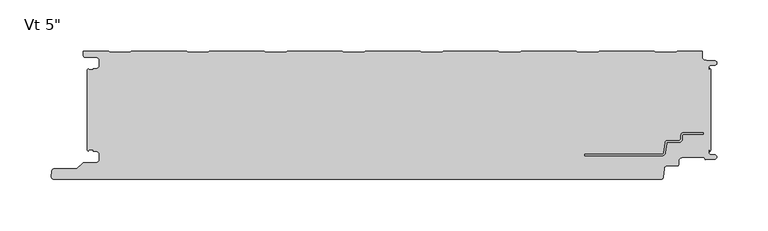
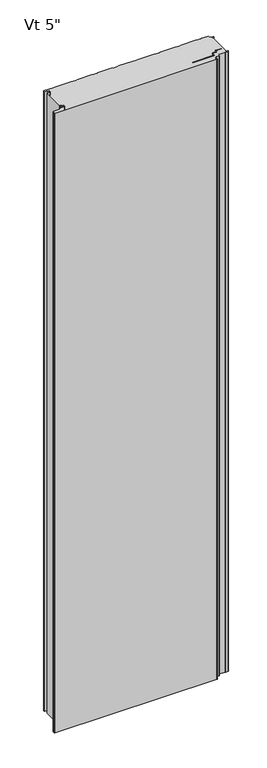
"""IFC4 building model written with IfcOpenShell, lengths in millimetres: plate geometry."""

from ifc_helpers import new_model, si_unit, frame, origin, place, context, project, spatial, polyline, circle_curve, source, transform, mapped, element, save
from ifc_brep_helpers import plane_surface, cylinder_surface, revolved_surface, advanced_brep


def plate_bf2f585f(model_context):
    return source(origin(), model_context, "Body", "AdvancedBrep", [
        advanced_brep(
        [(278.4543181, -80.5008679, 0.0), (297.1995181, -80.5008679, 0.0), (297.1995181, -82.0248679, 0.0), (278.4543181, -82.0248679, 0.0), (276.9303181, -83.5488679, 0.0), (276.9303181, -86.6476679, 0.0), (273.4759181, -90.1020679, 0.0), (262.2633607, -90.1020679, 0.0), (261.5042604, -90.7976552, 0.0), (260.3094328, -100.3416507, 0.0), (257.2730313, -103.124, 0.0), (181.7057181, -103.1360323, 0.0), (181.7057181, -101.6, 0.0), (257.2730313, -101.6, 0.0), (258.7912321, -100.2088254, 0.0), (259.9860597, -90.6648299, 0.0), (262.2633607, -88.5780679, 0.0), (273.4759181, -88.5780679, 0.0), (275.4063181, -86.6476679, 0.0), (275.4063181, -83.5488679, 0.0), (278.4543181, -80.5008679, 2400.0), (275.4063181, -83.5488679, 2400.0), (275.4063181, -86.6476679, 2400.0), (273.4759181, -88.5780679, 2400.0), (262.2633607, -88.5780679, 2400.0), (259.9860597, -90.6648299, 2400.0), (258.7912321, -100.2088254, 2400.0), (257.2730313, -101.6, 2400.0), (181.7057181, -101.6, 2400.0), (181.7057181, -103.1360323, 2400.0), (257.2730313, -103.1360323, 2400.0), (260.3094328, -100.3416507, 2400.0), (261.5042604, -90.7976552, 2400.0), (262.2633607, -90.1020679, 2400.0), (273.4759181, -90.1020679, 2400.0), (276.9303181, -86.6476679, 2400.0), (276.9303181, -83.5488679, 2400.0), (278.4543181, -82.0248679, 2400.0), (297.1995181, -82.0248679, 2400.0), (297.1995181, -80.5008679, 2400.0)],
        [
            (0, 1),
            (1, 2),
            (2, 3),
            (3, 4, circle_curve(frame((278.4543181, -83.5488679, 0.0), z_axis=(0.0, 0.0, 1.0), x_axis=(0.0, 1.0, 0.0)), 1.524)),
            (4, 5),
            (5, 6, circle_curve(frame((273.4759181, -86.6476679, 0.0), z_axis=(0.0, 0.0, -1.0), x_axis=(0.0, 1.0, 0.0)), 3.4544)),
            (6, 7),
            (7, 8, circle_curve(frame((262.2633607, -90.8640679, 0.0), z_axis=(0.0, 0.0, 1.0), x_axis=(0.0, 1.0, 0.0)), 0.762)),
            (8, 9),
            (9, 10, circle_curve(frame((257.2730313, -100.076, 0.0), z_axis=(0.0, 0.0, -1.0), x_axis=(0.0, 1.0, 0.0)), 3.048)),
            (10, 11),
            (11, 12),
            (12, 13),
            (13, 14, circle_curve(frame((257.2730313, -100.076, 0.0), z_axis=(0.0, 0.0, 1.0), x_axis=(0.0, 1.0, 0.0)), 1.524)),
            (14, 15),
            (15, 16, circle_curve(frame((262.2633607, -90.8640679, 0.0), z_axis=(0.0, 0.0, -1.0), x_axis=(0.0, 1.0, 0.0)), 2.286)),
            (16, 17),
            (17, 18, circle_curve(frame((273.4759181, -86.6476679, 0.0), z_axis=(0.0, 0.0, 1.0), x_axis=(0.0, 1.0, 0.0)), 1.9304)),
            (18, 19),
            (19, 0, circle_curve(frame((278.4543181, -83.5488679, 0.0), z_axis=(0.0, 0.0, -1.0), x_axis=(0.0, 1.0, 0.0)), 3.048)),
            (20, 21, circle_curve(frame((278.4543181, -83.5488679, 2400.0), z_axis=(0.0, 0.0, 1.0), x_axis=(0.0, 1.0, 0.0)), 3.048)),
            (21, 22),
            (22, 23, circle_curve(frame((273.4759181, -86.6476679, 2400.0), z_axis=(0.0, 0.0, -1.0), x_axis=(0.0, 1.0, 0.0)), 1.9304)),
            (23, 24),
            (24, 25, circle_curve(frame((262.2633607, -90.8640679, 2400.0), z_axis=(0.0, 0.0, 1.0), x_axis=(0.0, 1.0, 0.0)), 2.286)),
            (25, 26),
            (26, 27, circle_curve(frame((257.2730313, -100.076, 2400.0), z_axis=(0.0, 0.0, -1.0), x_axis=(0.0, 1.0, 0.0)), 1.524)),
            (27, 28),
            (28, 29),
            (29, 30),
            (30, 31, circle_curve(frame((257.2730313, -100.076, 2400.0), z_axis=(0.0, 0.0, 1.0), x_axis=(0.0, 1.0, 0.0)), 3.048)),
            (31, 32),
            (32, 33, circle_curve(frame((262.2633607, -90.8640679, 2400.0), z_axis=(0.0, 0.0, -1.0), x_axis=(0.0, 1.0, 0.0)), 0.762)),
            (33, 34),
            (34, 35, circle_curve(frame((273.4759181, -86.6476679, 2400.0), z_axis=(0.0, 0.0, 1.0), x_axis=(0.0, 1.0, 0.0)), 3.4544)),
            (35, 36),
            (36, 37, circle_curve(frame((278.4543181, -83.5488679, 2400.0), z_axis=(0.0, 0.0, -1.0), x_axis=(0.0, 1.0, 0.0)), 1.524)),
            (37, 38),
            (38, 39),
            (39, 20),
            (2, 38),
            (37, 3),
            (15, 25),
            (24, 16),
            (7, 33),
            (32, 8),
            (5, 35),
            (34, 6),
            (1, 39),
            (36, 4),
            (9, 31),
            (30, 10),
            (13, 27),
            (26, 14),
            (0, 20),
            (12, 28),
            (29, 11),
            (23, 17),
            (18, 22),
            (21, 19),
        ],
        [
            plane_surface(frame((297.1995181, -101.6, 0.0), z_axis=(0.0, 0.0, -1.0), x_axis=(-1.0, 0.0, 0.0))),
            plane_surface(frame((297.1995181, -101.6, 2400.0), z_axis=(0.0, 0.0, 1.0), x_axis=(-1.0, 0.0, 0.0))),
            plane_surface(frame((278.4543181, -82.0248679, 0.0), z_axis=(0.0, -1.0, 0.0), x_axis=(0.0, 0.0, 1.0))),
            cylinder_surface(frame((262.2633607, -90.8640679, 0.0), z_axis=(0.0, 0.0, -1.0), x_axis=(0.0, 1.0, 0.0)), 2.286),
            revolved_surface(polyline([(262.2633607, -90.1020679, 2400.0), (262.2633607, -90.1020679, 0.0)]), (262.2633607, -90.8640679, 0.0), (0.0, 0.0, 1.0)),
            cylinder_surface(frame((273.4759181, -86.6476679, 0.0), z_axis=(0.0, 0.0, -1.0), x_axis=(0.0, 1.0, 0.0)), 3.4544),
            plane_surface(frame((297.1995181, -82.0248679, 0.0), z_axis=(1.0, 0.0, 0.0), x_axis=(0.0, 0.0, 1.0))),
            revolved_surface(polyline([(278.4543181, -82.0248679, 2400.0), (278.4543181, -82.0248679, 0.0)]), (278.4543181, -83.5488679, 0.0), (0.0, 0.0, 1.0)),
            cylinder_surface(frame((257.2730313, -100.076, 0.0), z_axis=(0.0, 0.0, -1.0), x_axis=(0.0, 1.0, 0.0)), 3.048),
            revolved_surface(polyline([(257.2730313, -98.55199999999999, 2400.0), (257.2730313, -98.55199999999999, 0.0)]), (257.2730313, -100.076, 0.0), (0.0, 0.0, 1.0)),
            plane_surface(frame((297.1995181, -80.5008679, 0.0), z_axis=(0.0, 1.0, 0.0), x_axis=(0.0, 0.0, 1.0))),
            plane_surface(frame((259.9860597, -90.6648299, 0.0), z_axis=(-0.992254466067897, 0.12422187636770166, 0.0), x_axis=(0.0, 0.0, 1.0))),
            plane_surface(frame((257.2730313, -101.6, 0.0), z_axis=(0.0, 1.0, 0.0), x_axis=(0.0, 0.0, 1.0))),
            plane_surface(frame((260.3094328, -100.3416507, 0.0), z_axis=(0.9922544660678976, -0.12422187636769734, 0.0), x_axis=(0.0, 0.0, 1.0))),
            plane_surface(frame((276.9303181, -86.6476679, 0.0), z_axis=(1.0, 0.0, 0.0), x_axis=(0.0, 0.0, 1.0))),
            plane_surface(frame((181.7057181, -103.1360323, 0.0), z_axis=(0.0, -1.0, 0.0), x_axis=(0.0, 0.0, 1.0))),
            plane_surface(frame((181.7057181, -101.6, 0.0), z_axis=(-1.0, 0.0, 0.0), x_axis=(0.0, 0.0, 1.0))),
            plane_surface(frame((273.4759181, -88.5780679, 0.0), z_axis=(0.0, 1.0, 0.0), x_axis=(0.0, 0.0, 1.0))),
            plane_surface(frame((275.4063181, -83.5488679, 0.0), z_axis=(-1.0, 0.0, 0.0), x_axis=(0.0, 0.0, 1.0))),
            plane_surface(frame((262.2633607, -90.1020679, 0.0), z_axis=(0.0, -1.0, 0.0), x_axis=(0.0, 0.0, 1.0))),
            revolved_surface(polyline([(273.4759181, -84.7172679, 2400.0), (273.4759181, -84.7172679, 0.0)]), (273.4759181, -86.6476679, 0.0), (0.0, 0.0, 1.0)),
            cylinder_surface(frame((278.4543181, -83.5488679, 0.0), z_axis=(0.0, 0.0, -1.0), x_axis=(0.0, 1.0, 0.0)), 3.048),
        ],
        [
            (0, [[1, 2, 3, 4, 5, 6, 7, 8, 9, 10, 11, 12, 13, 14, 15, 16, 17, 18, 19, 20]]),
            (1, [[21, 22, 23, 24, 25, 26, 27, 28, 29, 30, 31, 32, 33, 34, 35, 36, 37, 38, 39, 40]]),
            (2, [[41, -38, 42, -3]]),
            (3, [[43, -25, 44, -16]]),
            (4, [[45, -33, 46, -8]]),
            (5, [[47, -35, 48, -6]]),
            (6, [[49, -39, -41, -2]]),
            (7, [[-42, -37, 50, -4]]),
            (8, [[51, -31, 52, -10]]),
            (9, [[53, -27, 54, -14]]),
            (10, [[55, -40, -49, -1]]),
            (11, [[-54, -26, -43, -15]]),
            (12, [[56, -28, -53, -13]]),
            (13, [[-46, -32, -51, -9]]),
            (14, [[-50, -36, -47, -5]]),
            (15, [[-52, -30, 57, -11]]),
            (16, [[-57, -29, -56, -12]]),
            (17, [[-44, -24, 58, -17]]),
            (18, [[59, -22, 60, -19]]),
            (19, [[-48, -34, -45, -7]]),
            (20, [[-58, -23, -59, -18]]),
            (21, [[-60, -21, -55, -20]]),
        ],
    ),
        advanced_brep(
        [(-303.7683001, -98.670875, 2400.0), (-302.5671761, -97.5014003, 2400.0), (-298.8087827, -97.5014003, 2400.0), (-298.8087827, -98.8998791, 2400.0), (-296.1096717, -98.8998791, 2400.0), (-292.7596764, -102.2498744, 2400.0), (-292.7596764, -106.6498656, 2400.0), (-296.1096717, -109.9998609, 2400.0), (-307.9205608, -109.9998609, 2400.0), (-309.1226385, -110.4977778, 2400.0), (-314.6247096, -115.9998489, 2400.0), (-336.7198392, -115.9998489, 2400.0), (-339.3765709, -118.2184509, 2400.0), (-339.8125699, -123.2002718, 2400.0), (-337.2521176, -125.9945967, 2400.0), (256.315622, -126.0, 2400.0), (258.2669057, -124.2149259, 2400.0), (259.021161, -115.7539491, 2400.0), (262.1653654, -112.9906462, 2400.0), (272.2583308, -112.9906462, 2400.0), (273.2097394, -112.0392375, 2400.0), (273.2097394, -108.8955822, 2400.0), (277.2091924, -104.8961292, 2400.0), (298.3895515, -104.8961292, 2400.0), (299.5334028, -106.876977, 2400.0), (308.506811, -106.5217167, 2400.0), (308.5037148, -102.3211391, 2400.0), (304.4977997, -102.0767242, 2400.0), (302.7686884, -100.2819116, 2400.0), (302.7686884, -97.497365, 2400.0), (303.7686884, -97.497365, 2400.0), (303.7686884, -99.084865, 2400.0), (304.8, -98.0535534, 2400.0), (304.8, -18.6184525, 2400.0), (303.7686884, -17.5871409, 2400.0), (303.7686884, -19.0015288, 2400.0), (302.7686884, -19.0015288, 2400.0), (302.7686884, -16.6743462, 2400.0), (304.4513685, -14.9256429, 2400.0), (308.5921924, -14.7059822, 2400.0), (308.5931719, -10.4046442, 2400.0), (300.1016499, -9.9974365, 2400.0), (296.2787013, -6.0026007, 2400.0), (296.2787013, -1.0, 2400.0), (271.7794011, -1.0, 2400.0), (270.3937682, -2.2002307, 2400.0), (251.0186019, -2.2002307, 2400.0), (249.6329689, -1.0, 2400.0), (195.5795535, -1.0, 2400.0), (194.1939206, -2.2002307, 2400.0), (174.8187543, -2.2002307, 2400.0), (173.4331213, -1.0, 2400.0), (119.3797059, -1.0, 2400.0), (117.994073, -2.2002307, 2400.0), (98.6189067, -2.2002307, 2400.0), (97.2332737, -1.0, 2400.0), (43.1798583, -1.0, 2400.0), (41.7942254, -2.2002307, 2400.0), (22.4190591, -2.2002307, 2400.0), (21.0334261, -1.0, 2400.0), (-33.0199893, -1.0, 2400.0), (-34.4056222, -2.2002307, 2400.0), (-53.7807885, -2.2002307, 2400.0), (-55.1664215, -1.0, 2400.0), (-109.2198369, -1.0, 2400.0), (-110.6054698, -2.2002307, 2400.0), (-129.9806361, -2.2002307, 2400.0), (-131.3662691, -1.0, 2400.0), (-185.4196845, -1.0, 2400.0), (-186.8053174, -2.2002307, 2400.0), (-206.1804837, -2.2002307, 2400.0), (-207.5661167, -1.0, 2400.0), (-261.6195321, -1.0, 2400.0), (-263.005165, -2.2002307, 2400.0), (-282.3803313, -2.2002307, 2400.0), (-283.765974, -0.9999916, 2400.0), (-308.2662506, -0.9999916, 2400.0), (-308.2662506, -5.2315389, 2400.0), (-306.4962564, -7.0015331, 2400.0), (-296.0762778, -7.0015331, 2400.0), (-292.776282, -10.301529, 2400.0), (-292.776282, -14.7015202, 2400.0), (-296.0762777, -18.0015159, 2400.0), (-298.7684875, -18.0015159, 2400.0), (-298.7684875, -19.0015105, 2400.0), (-302.7686911, -19.0015105, 2400.0), (-303.7686883, -18.0015192, 2400.0), (-304.8, -19.0328308, 2400.0), (-304.8, -97.6391751, 2400.0), (-303.7683001, -98.670875, 0.0), (-304.8, -97.6391751, 0.0), (-304.8, -19.0328308, 0.0), (-303.7686883, -18.0015192, 0.0), (-302.7686911, -19.0015105, 0.0), (-298.7684875, -19.0015105, 0.0), (-298.7684875, -18.0015159, 0.0), (-296.0762777, -18.0015159, 0.0), (-292.776282, -14.7015202, 0.0), (-292.776282, -10.301529, 0.0), (-296.0762778, -7.0015331, 0.0), (-306.4962564, -7.0015331, 0.0), (-308.2662506, -5.2315389, 0.0), (-308.2662506, -0.9999916, 0.0), (-283.765974, -0.9999916, 0.0), (-282.3803313, -2.2002307, 0.0), (-263.005165, -2.2002307, 0.0), (-261.6195321, -1.0, 0.0), (-207.5661167, -1.0, 0.0), (-206.1804837, -2.2002307, 0.0), (-186.8053174, -2.2002307, 0.0), (-185.4196845, -1.0, 0.0), (-131.3662691, -1.0, 0.0), (-129.9806361, -2.2002307, 0.0), (-110.6054698, -2.2002307, 0.0), (-109.2198369, -1.0, 0.0), (-55.1664215, -1.0, 0.0), (-53.7807885, -2.2002307, 0.0), (-34.4056222, -2.2002307, 0.0), (-33.0199893, -1.0, 0.0), (21.0334261, -1.0, 0.0), (22.4190591, -2.2002307, 0.0), (41.7942254, -2.2002307, 0.0), (43.1798583, -1.0, 0.0), (97.2332737, -1.0, 0.0), (98.6189067, -2.2002307, 0.0), (117.994073, -2.2002307, 0.0), (119.3797059, -1.0, 0.0), (173.4331213, -1.0, 0.0), (174.8187543, -2.2002307, 0.0), (194.1939206, -2.2002307, 0.0), (195.5795535, -1.0, 0.0), (249.6329689, -1.0, 0.0), (251.0186019, -2.2002307, 0.0), (270.3937682, -2.2002307, 0.0), (271.7794011, -1.0, 0.0), (296.2787013, -1.0, 0.0), (296.2787013, -6.0026007, 0.0), (300.1016499, -9.9974365, 0.0), (308.5931719, -10.4046442, 0.0), (308.5921924, -14.7059822, 0.0), (304.4513685, -14.9256429, 0.0), (302.7686884, -16.6743462, 0.0), (302.7686884, -19.0015288, 0.0), (303.7686884, -19.0015288, 0.0), (303.7686884, -17.5871409, 0.0), (304.8, -18.6184525, 0.0), (304.8, -98.0535534, 0.0), (303.7686884, -99.084865, 0.0), (303.7686884, -97.497365, 0.0), (302.7686884, -97.497365, 0.0), (302.7686884, -100.2819116, 0.0), (304.4977997, -102.0767242, 0.0), (308.5037148, -102.3211391, 0.0), (308.506811, -106.5217167, 0.0), (299.5334028, -106.876977, 0.0), (298.3895515, -104.8961292, 0.0), (277.2091924, -104.8961292, 0.0), (273.2097394, -108.8955822, 0.0), (273.2097394, -112.0392375, 0.0), (272.2583308, -112.9906462, 0.0), (262.1653654, -112.9906462, 0.0), (259.021161, -115.7539491, 0.0), (258.2669057, -124.2149259, 0.0), (256.315622, -126.0, 0.0), (-337.2521176, -126.0, 0.0), (-339.8125699, -123.2002718, 0.0), (-339.3765709, -118.2184509, 0.0), (-336.7198392, -115.9998489, 0.0), (-314.6247096, -115.9998489, 0.0), (-309.1226385, -110.4977778, 0.0), (-307.9205608, -109.9998609, 0.0), (-296.1096717, -109.9998609, 0.0), (-292.7596764, -106.6498656, 0.0), (-292.7596764, -102.2498744, 0.0), (-296.1096717, -98.8998791, 0.0), (-298.8087827, -98.8998791, 0.0), (-298.8087827, -97.5014003, 0.0), (-302.5671761, -97.5014003, 0.0)],
        [
            (0, 1, circle_curve(frame((-302.5686908, -98.7013969, 2400.0), z_axis=(0.0, 0.0, -1.0), x_axis=(-1.0, 0.0, 0.0)), 1.1999976)),
            (1, 2),
            (2, 3),
            (3, 4),
            (4, 5, circle_curve(frame((-296.1096717, -102.2498744, 2400.0), z_axis=(0.0, 0.0, -1.0), x_axis=(-1.0, 0.0, 0.0)), 3.3499953)),
            (5, 6),
            (6, 7, circle_curve(frame((-296.1096717, -106.6498656, 2400.0), z_axis=(0.0, 0.0, -1.0), x_axis=(-1.0, 0.0, 0.0)), 3.3499953)),
            (7, 8),
            (8, 9, circle_curve(frame((-307.9205608, -111.6998555, 2400.0), z_axis=(0.0, 0.0, 1.0), x_axis=(-1.0, 0.0, 0.0)), 1.6999946)),
            (9, 10),
            (10, 11),
            (11, 12, circle_curve(frame((-336.7198392, -118.6998415, 2400.0), z_axis=(0.0, 0.0, 1.0), x_axis=(-1.0, 0.0, 0.0)), 2.6999926)),
            (12, 13),
            (13, 14, circle_curve(frame((-337.2521176, -123.4243575, 2400.0), z_axis=(0.0, 0.0, 1.0), x_axis=(-1.0, 0.0, 0.0)), 2.5702393)),
            (14, 15),
            (15, 16, circle_curve(frame((256.315622, -124.0409784, 2400.0), z_axis=(0.0, 0.0, 1.0), x_axis=(-1.0, 0.0, 0.0)), 1.9590216)),
            (16, 17),
            (17, 18, circle_curve(frame((262.0396267, -116.0180321, 2400.0), z_axis=(0.0, 0.0, -1.0), x_axis=(-1.0, 0.0, 0.0)), 3.0299959)),
            (18, 19),
            (19, 20, circle_curve(frame((272.2583308, -112.0392375, 2400.0), z_axis=(0.0, 0.0, 1.0), x_axis=(-1.0, 0.0, 0.0)), 0.9514087)),
            (20, 21),
            (21, 22, circle_curve(frame((277.2091924, -108.8955822, 2400.0), z_axis=(0.0, 0.0, -1.0), x_axis=(-1.0, 0.0, 0.0)), 3.9994529)),
            (22, 23),
            (23, 24),
            (24, 25),
            (25, 26, circle_curve(frame((308.4236622, -104.421488, 2400.0), z_axis=(0.0, 0.0, 1.0), x_axis=(-1.0, 0.0, 0.0)), 2.1018739)),
            (26, 27),
            (27, 28, circle_curve(frame((304.6099653, -100.2383506, 2400.0), z_axis=(0.0, 0.0, -1.0), x_axis=(-1.0, 0.0, 0.0)), 1.8417922)),
            (28, 29),
            (29, 30),
            (30, 31),
            (31, 32),
            (32, 33),
            (33, 34),
            (34, 35),
            (35, 36),
            (36, 37),
            (37, 38, circle_curve(frame((304.5186869, -16.6743462, 2400.0), z_axis=(0.0, 0.0, -1.0), x_axis=(1.0, 0.0, 0.0)), 1.7499985)),
            (38, 39),
            (39, 40, circle_curve(frame((308.4781032, -12.5552871, 2400.0), z_axis=(0.0, 0.0, 1.0), x_axis=(1.0, 0.0, 0.0)), 2.153719)),
            (40, 41),
            (41, 42, circle_curve(frame((300.2939817, -5.9867338, 2400.0), z_axis=(0.0, 0.0, -1.0), x_axis=(1.0, 0.0, 0.0)), 4.0153117)),
            (42, 43),
            (43, 44),
            (44, 45),
            (45, 46),
            (46, 47),
            (47, 48),
            (48, 49),
            (49, 50),
            (50, 51),
            (51, 52),
            (52, 53),
            (53, 54),
            (54, 55),
            (55, 56),
            (56, 57),
            (57, 58),
            (58, 59),
            (59, 60),
            (60, 61),
            (61, 62),
            (62, 63),
            (63, 64),
            (64, 65),
            (65, 66),
            (66, 67),
            (67, 68),
            (68, 69),
            (69, 70),
            (70, 71),
            (71, 72),
            (72, 73),
            (73, 74),
            (74, 75),
            (75, 76),
            (76, 77),
            (77, 78, circle_curve(frame((-306.4962564, -5.2315389, 2400.0), z_axis=(0.0, 0.0, 1.0), x_axis=(1.0, 0.0, 0.0)), 1.7699942)),
            (78, 79),
            (79, 80, circle_curve(frame((-296.0762778, -10.301529, 2400.0), z_axis=(0.0, 0.0, -1.0), x_axis=(1.0, 0.0, 0.0)), 3.2999959)),
            (80, 81),
            (81, 82, circle_curve(frame((-296.0762777, -14.7015202, 2400.0), z_axis=(0.0, 0.0, -1.0), x_axis=(1.0, 0.0, 0.0)), 3.2999957)),
            (82, 83),
            (83, 84),
            (84, 85),
            (85, 86, circle_curve(frame((-302.7686911, -18.0015133, 2400.0), z_axis=(0.0, 0.0, -1.0), x_axis=(1.0, 0.0, 0.0)), 0.9999972)),
            (86, 87),
            (87, 88),
            (88, 0),
            (89, 90),
            (90, 91),
            (91, 92),
            (92, 93, circle_curve(frame((-302.7686911, -18.0015133, 0.0), z_axis=(0.0, 0.0, 1.0), x_axis=(1.0, 0.0, 0.0)), 0.9999972)),
            (93, 94),
            (94, 95),
            (95, 96),
            (96, 97, circle_curve(frame((-296.0762777, -14.7015202, 0.0), z_axis=(0.0, 0.0, 1.0), x_axis=(1.0, 0.0, 0.0)), 3.2999957)),
            (97, 98),
            (98, 99, circle_curve(frame((-296.0762778, -10.301529, 0.0), z_axis=(0.0, 0.0, 1.0), x_axis=(1.0, 0.0, 0.0)), 3.2999959)),
            (99, 100),
            (100, 101, circle_curve(frame((-306.4962564, -5.2315389, 0.0), z_axis=(0.0, 0.0, -1.0), x_axis=(1.0, 0.0, 0.0)), 1.7699942)),
            (101, 102),
            (102, 103),
            (103, 104),
            (104, 105),
            (105, 106),
            (106, 107),
            (107, 108),
            (108, 109),
            (109, 110),
            (110, 111),
            (111, 112),
            (112, 113),
            (113, 114),
            (114, 115),
            (115, 116),
            (116, 117),
            (117, 118),
            (118, 119),
            (119, 120),
            (120, 121),
            (121, 122),
            (122, 123),
            (123, 124),
            (124, 125),
            (125, 126),
            (126, 127),
            (127, 128),
            (128, 129),
            (129, 130),
            (130, 131),
            (131, 132),
            (132, 133),
            (133, 134),
            (134, 135),
            (135, 136),
            (136, 137, circle_curve(frame((300.2939817, -5.9867338, 0.0), z_axis=(0.0, 0.0, 1.0), x_axis=(1.0, 0.0, 0.0)), 4.0153117)),
            (137, 138),
            (138, 139, circle_curve(frame((308.4781032, -12.5552871, 0.0), z_axis=(0.0, 0.0, -1.0), x_axis=(1.0, 0.0, 0.0)), 2.153719)),
            (139, 140),
            (140, 141, circle_curve(frame((304.5186869, -16.6743462, 0.0), z_axis=(0.0, 0.0, 1.0), x_axis=(1.0, 0.0, 0.0)), 1.7499985)),
            (141, 142),
            (142, 143),
            (143, 144),
            (144, 145),
            (145, 146),
            (146, 147),
            (147, 148),
            (148, 149),
            (149, 150),
            (150, 151, circle_curve(frame((304.6099653, -100.2383506, 0.0), z_axis=(0.0, 0.0, 1.0), x_axis=(-1.0, 0.0, 0.0)), 1.8417922)),
            (151, 152),
            (152, 153, circle_curve(frame((308.4236622, -104.421488, 0.0), z_axis=(0.0, 0.0, -1.0), x_axis=(-1.0, 0.0, 0.0)), 2.1018739)),
            (153, 154),
            (154, 155),
            (155, 156),
            (156, 157, circle_curve(frame((277.2091924, -108.8955822, 0.0), z_axis=(0.0, 0.0, 1.0), x_axis=(-1.0, 0.0, 0.0)), 3.9994529)),
            (157, 158),
            (158, 159, circle_curve(frame((272.2583308, -112.0392375, 0.0), z_axis=(0.0, 0.0, -1.0), x_axis=(-1.0, 0.0, 0.0)), 0.9514087)),
            (159, 160),
            (160, 161, circle_curve(frame((262.0396267, -116.0180321, 0.0), z_axis=(0.0, 0.0, 1.0), x_axis=(-1.0, 0.0, 0.0)), 3.0299959)),
            (161, 162),
            (162, 163, circle_curve(frame((256.315622, -124.0409784, 0.0), z_axis=(0.0, 0.0, -1.0), x_axis=(-1.0, 0.0, 0.0)), 1.9590216)),
            (163, 164),
            (164, 165, circle_curve(frame((-337.2521176, -123.4243575, 0.0), z_axis=(0.0, 0.0, -1.0), x_axis=(-1.0, 0.0, 0.0)), 2.5702393)),
            (165, 166),
            (166, 167, circle_curve(frame((-336.7198392, -118.6998415, 0.0), z_axis=(0.0, 0.0, -1.0), x_axis=(-1.0, 0.0, 0.0)), 2.6999926)),
            (167, 168),
            (168, 169),
            (169, 170, circle_curve(frame((-307.9205608, -111.6998555, 0.0), z_axis=(0.0, 0.0, -1.0), x_axis=(-1.0, 0.0, 0.0)), 1.6999946)),
            (170, 171),
            (171, 172, circle_curve(frame((-296.1096717, -106.6498656, 0.0), z_axis=(0.0, 0.0, 1.0), x_axis=(-1.0, 0.0, 0.0)), 3.3499953)),
            (172, 173),
            (173, 174, circle_curve(frame((-296.1096717, -102.2498744, 0.0), z_axis=(0.0, 0.0, 1.0), x_axis=(-1.0, 0.0, 0.0)), 3.3499953)),
            (174, 175),
            (175, 176),
            (176, 177),
            (177, 89, circle_curve(frame((-302.5686908, -98.7013969, 0.0), z_axis=(0.0, 0.0, 1.0), x_axis=(-1.0, 0.0, 0.0)), 1.1999976)),
            (88, 90),
            (89, 0),
            (87, 91),
            (32, 146),
            (145, 33),
            (31, 147),
            (30, 148),
            (29, 149),
            (28, 150),
            (27, 151),
            (26, 152),
            (25, 153),
            (24, 154),
            (23, 155),
            (22, 156),
            (21, 157),
            (20, 158),
            (19, 159),
            (18, 160),
            (17, 161),
            (16, 162),
            (15, 163),
            (14, 164),
            (13, 165),
            (12, 166),
            (11, 167),
            (10, 168),
            (9, 169),
            (8, 170),
            (7, 171),
            (6, 172),
            (5, 173),
            (4, 174),
            (3, 175),
            (2, 176),
            (1, 177),
            (86, 92),
            (85, 93),
            (84, 94),
            (83, 95),
            (82, 96),
            (81, 97),
            (80, 98),
            (79, 99),
            (78, 100),
            (77, 101),
            (76, 102),
            (41, 137),
            (136, 42),
            (40, 138),
            (39, 139),
            (38, 140),
            (37, 141),
            (36, 142),
            (35, 143),
            (34, 144),
            (74, 104),
            (103, 75),
            (73, 105),
            (72, 106),
            (71, 107),
            (70, 108),
            (69, 109),
            (68, 110),
            (67, 111),
            (66, 112),
            (65, 113),
            (64, 114),
            (63, 115),
            (62, 116),
            (61, 117),
            (60, 118),
            (59, 119),
            (58, 120),
            (57, 121),
            (56, 122),
            (55, 123),
            (54, 124),
            (53, 125),
            (52, 126),
            (51, 127),
            (50, 128),
            (49, 129),
            (48, 130),
            (47, 131),
            (46, 132),
            (45, 133),
            (44, 134),
            (43, 135),
        ],
        [
            plane_surface(frame((0.0, -126.0, 2400.0), z_axis=(0.0, 0.0, 1.0), x_axis=(0.0, -1.0, 0.0))),
            plane_surface(frame((0.0, -126.0, 0.0), z_axis=(0.0, 0.0, -1.0), x_axis=(0.0, -1.0, 0.0))),
            plane_surface(frame((-303.7683001, -98.670875, 2400.0), z_axis=(-0.7071067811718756, -0.7071067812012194, 0.0), x_axis=(0.0, 0.0, -1.0))),
            plane_surface(frame((-304.8, -97.6391751, 2400.0), z_axis=(-1.0, 0.0, 0.0), x_axis=(0.0, 0.0, -1.0))),
            plane_surface(frame((304.8, -96.6391751, 2400.0), z_axis=(1.0, 0.0, 0.0), x_axis=(0.0, 0.0, -1.0))),
            plane_surface(frame((304.8, -98.0535534, 2400.0), z_axis=(0.7071067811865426, -0.7071067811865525, 0.0), x_axis=(0.0, 0.0, -1.0))),
            plane_surface(frame((303.7686884, -99.084865, 2400.0), z_axis=(-1.0, 0.0, 0.0), x_axis=(0.0, 0.0, -1.0))),
            plane_surface(frame((303.7686884, -97.497365, 2400.0), z_axis=(0.0, -1.0, 0.0), x_axis=(0.0, 0.0, -1.0))),
            plane_surface(frame((302.7686884, -97.497365, 2400.0), z_axis=(1.0, 0.0, 0.0), x_axis=(0.0, 0.0, -1.0))),
            revolved_surface(polyline([(302.7681731, -100.2383506, 0.0), (302.7681731, -100.2383506, 2400.0)]), (304.6099653, -100.2383506, 2400.0), (0.0, 0.0, -1.0)),
            plane_surface(frame((304.4977997, -102.0767242, 2400.0), z_axis=(0.06090025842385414, 0.9981438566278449, 0.0), x_axis=(0.0, 0.0, -1.0))),
            cylinder_surface(frame((308.4236622, -104.421488, 2400.0), z_axis=(0.0, 0.0, 1.0), x_axis=(-1.0, 0.0, 0.0)), 2.1018739),
            plane_surface(frame((308.506811, -106.5217167, 2400.0), z_axis=(0.03955935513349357, -0.9992172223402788, 0.0), x_axis=(0.0, 0.0, -1.0))),
            plane_surface(frame((299.5334028, -106.876977, 2400.0), z_axis=(-0.8659859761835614, -0.5000682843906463, 0.0), x_axis=(0.0, 0.0, -1.0))),
            plane_surface(frame((298.3895515, -104.8961292, 2400.0), z_axis=(0.0, -1.0, 0.0), x_axis=(0.0, 0.0, -1.0))),
            revolved_surface(polyline([(273.2097395, -108.8955822, 0.0), (273.2097395, -108.8955822, 2400.0)]), (277.2091924, -108.8955822, 2400.0), (0.0, 0.0, -1.0)),
            plane_surface(frame((273.2097394, -108.8955822, 2400.0), z_axis=(1.0, 0.0, 0.0), x_axis=(0.0, 0.0, -1.0))),
            cylinder_surface(frame((272.2583308, -112.0392375, 2400.0), z_axis=(0.0, 0.0, 1.0), x_axis=(-1.0, 0.0, 0.0)), 0.9514087),
            plane_surface(frame((272.2583308, -112.9906462, 2400.0), z_axis=(0.0, -1.0, 0.0), x_axis=(0.0, 0.0, -1.0))),
            revolved_surface(polyline([(259.00963079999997, -116.0180321, 0.0), (259.00963079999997, -116.0180321, 2400.0)]), (262.0396267, -116.0180321, 2400.0), (0.0, 0.0, -1.0)),
            plane_surface(frame((259.021161, -115.7539491, 2400.0), z_axis=(0.9960500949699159, -0.08879306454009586, 0.0), x_axis=(0.0, 0.0, -1.0))),
            cylinder_surface(frame((256.315622, -124.0409784, 2400.0), z_axis=(0.0, 0.0, 1.0), x_axis=(-1.0, 0.0, 0.0)), 1.9590216),
            plane_surface(frame((256.315622, -126.0, 2400.0), z_axis=(0.0, -1.0, 0.0), x_axis=(0.0, 0.0, -1.0))),
            cylinder_surface(frame((-337.2521176, -123.4243575, 2400.0), z_axis=(0.0, 0.0, 1.0), x_axis=(-1.0, 0.0, 0.0)), 2.5702393),
            plane_surface(frame((-339.8125699, -123.2002718, 2400.0), z_axis=(-0.9961921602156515, 0.08718474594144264, 0.0), x_axis=(0.0, 0.0, -1.0))),
            cylinder_surface(frame((-336.7198392, -118.6998415, 2400.0), z_axis=(0.0, 0.0, 1.0), x_axis=(-1.0, 0.0, 0.0)), 2.6999926),
            plane_surface(frame((-336.7198392, -115.9998489, 2400.0), z_axis=(0.0, 1.0, 0.0), x_axis=(0.0, 0.0, -1.0))),
            plane_surface(frame((-314.6247096, -115.9998489, 2400.0), z_axis=(-0.7071067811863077, 0.7071067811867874, 0.0), x_axis=(0.0, 0.0, -1.0))),
            cylinder_surface(frame((-307.9205608, -111.6998555, 2400.0), z_axis=(0.0, 0.0, 1.0), x_axis=(-1.0, 0.0, 0.0)), 1.6999946),
            plane_surface(frame((-307.9205608, -109.9998609, 2400.0), z_axis=(0.0, 1.0, 0.0), x_axis=(0.0, 0.0, -1.0))),
            revolved_surface(polyline([(-299.45966699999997, -106.6498656, 0.0), (-299.45966699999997, -106.6498656, 2400.0)]), (-296.1096717, -106.6498656, 2400.0), (0.0, 0.0, -1.0)),
            plane_surface(frame((-292.7596764, -106.6498656, 2400.0), z_axis=(-1.0, 0.0, 0.0), x_axis=(0.0, 0.0, -1.0))),
            revolved_surface(polyline([(-299.45966699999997, -102.2498744, 0.0), (-299.45966699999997, -102.2498744, 2400.0)]), (-296.1096717, -102.2498744, 2400.0), (0.0, 0.0, -1.0)),
            plane_surface(frame((-296.1096717, -98.8998791, 2400.0), z_axis=(0.0, -1.0, 0.0), x_axis=(0.0, 0.0, -1.0))),
            plane_surface(frame((-298.8087827, -98.8998791, 2400.0), z_axis=(-1.0, 0.0, 0.0), x_axis=(0.0, 0.0, -1.0))),
            plane_surface(frame((-298.8087827, -97.5014003, 2400.0), z_axis=(0.0, -1.0, 0.0), x_axis=(0.0, 0.0, -1.0))),
            revolved_surface(polyline([(-303.76868840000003, -98.7013969, 0.0), (-303.76868840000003, -98.7013969, 2400.0)]), (-302.5686908, -98.7013969, 2400.0), (0.0, 0.0, -1.0)),
            plane_surface(frame((-304.8, -19.0328308, 2400.0), z_axis=(-0.7071067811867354, 0.7071067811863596, 0.0), x_axis=(0.0, 0.0, -1.0))),
            revolved_surface(polyline([(-301.7686939, -18.0015133, 0.0), (-301.7686939, -18.0015133, 2400.0)]), (-302.7686911, -18.0015133, 2400.0), (0.0, 0.0, -1.0)),
            plane_surface(frame((-302.7686911, -19.0015105, 2400.0), z_axis=(0.0, 1.0, 0.0), x_axis=(0.0, 0.0, -1.0))),
            plane_surface(frame((-298.7684875, -19.0015105, 2400.0), z_axis=(-1.0, 0.0, 0.0), x_axis=(0.0, 0.0, -1.0))),
            plane_surface(frame((-298.7684875, -18.0015159, 2400.0), z_axis=(0.0, 1.0, 0.0), x_axis=(0.0, 0.0, -1.0))),
            revolved_surface(polyline([(-292.776282, -14.7015202, 0.0), (-292.776282, -14.7015202, 2400.0)]), (-296.0762777, -14.7015202, 2400.0), (0.0, 0.0, -1.0)),
            plane_surface(frame((-292.776282, -14.7015202, 2400.0), z_axis=(-1.0, 0.0, 0.0), x_axis=(0.0, 0.0, -1.0))),
            revolved_surface(polyline([(-292.7762819, -10.301529, 0.0), (-292.7762819, -10.301529, 2400.0)]), (-296.0762778, -10.301529, 2400.0), (0.0, 0.0, -1.0)),
            plane_surface(frame((-296.0762778, -7.0015331, 2400.0), z_axis=(0.0, -1.0, 0.0), x_axis=(0.0, 0.0, -1.0))),
            cylinder_surface(frame((-306.4962564, -5.2315389, 2400.0), z_axis=(0.0, 0.0, 1.0), x_axis=(1.0, 0.0, 0.0)), 1.7699942),
            plane_surface(frame((-308.2662506, -5.2315389, 2400.0), z_axis=(-1.0, 0.0, 0.0), x_axis=(0.0, 0.0, -1.0))),
            revolved_surface(polyline([(304.3092934, -5.9867338, 0.0), (304.3092934, -5.9867338, 2400.0)]), (300.2939817, -5.9867338, 2400.0), (0.0, 0.0, -1.0)),
            plane_surface(frame((300.1016499, -9.9974365, 2400.0), z_axis=(0.047899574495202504, 0.9988521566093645, 0.0), x_axis=(0.0, 0.0, -1.0))),
            cylinder_surface(frame((308.4781032, -12.5552871, 2400.0), z_axis=(0.0, 0.0, 1.0), x_axis=(1.0, 0.0, 0.0)), 2.153719),
            plane_surface(frame((308.5921924, -14.7059822, 2400.0), z_axis=(0.05297310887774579, -0.9985959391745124, 0.0), x_axis=(0.0, 0.0, -1.0))),
            revolved_surface(polyline([(306.2686854, -16.6743462, 0.0), (306.2686854, -16.6743462, 2400.0)]), (304.5186869, -16.6743462, 2400.0), (0.0, 0.0, -1.0)),
            plane_surface(frame((302.7686884, -16.6743462, 2400.0), z_axis=(1.0, 0.0, 0.0), x_axis=(0.0, 0.0, -1.0))),
            plane_surface(frame((302.7686884, -19.0015288, 2400.0), z_axis=(0.0, 1.0, 0.0), x_axis=(0.0, 0.0, -1.0))),
            plane_surface(frame((303.7686884, -19.0015288, 2400.0), z_axis=(-1.0, 0.0, 0.0), x_axis=(0.0, 0.0, -1.0))),
            plane_surface(frame((303.7686884, -17.5871409, 2400.0), z_axis=(0.7071067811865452, 0.7071067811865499, 0.0), x_axis=(0.0, 0.0, -1.0))),
            plane_surface(frame((-283.765974, -0.9999916, 2400.0), z_axis=(0.6547276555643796, 0.7558648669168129, 0.0), x_axis=(0.0, 0.0, -1.0))),
            plane_surface(frame((-308.2662506, -0.9999916, 2400.0), z_axis=(0.0, 1.0, 0.0), x_axis=(0.0, 0.0, -1.0))),
            plane_surface(frame((-282.3803313, -2.2002307, 2400.0), z_axis=(0.0, 1.0, 0.0), x_axis=(0.0, 0.0, -1.0))),
            plane_surface(frame((-263.005165, -2.2002307, 2400.0), z_axis=(-0.6547276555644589, 0.7558648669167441, 0.0), x_axis=(0.0, 0.0, -1.0))),
            plane_surface(frame((-261.6195321, -1.0, 2400.0), z_axis=(0.0, 1.0, 0.0), x_axis=(0.0, 0.0, -1.0))),
            plane_surface(frame((-207.5661167, -1.0, 2400.0), z_axis=(0.6547276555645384, 0.7558648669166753, 0.0), x_axis=(0.0, 0.0, -1.0))),
            plane_surface(frame((-206.1804837, -2.2002307, 2400.0), z_axis=(0.0, 1.0, 0.0), x_axis=(0.0, 0.0, -1.0))),
            plane_surface(frame((-186.8053174, -2.2002307, 2400.0), z_axis=(-0.6547276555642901, 0.7558648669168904, 0.0), x_axis=(0.0, 0.0, -1.0))),
            plane_surface(frame((-185.4196845, -1.0, 2400.0), z_axis=(0.0, 1.0, 0.0), x_axis=(0.0, 0.0, -1.0))),
            plane_surface(frame((-131.3662691, -1.0, 2400.0), z_axis=(0.6547276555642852, 0.7558648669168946, 0.0), x_axis=(0.0, 0.0, -1.0))),
            plane_surface(frame((-129.9806361, -2.2002307, 2400.0), z_axis=(0.0, 1.0, 0.0), x_axis=(0.0, 0.0, -1.0))),
            plane_surface(frame((-110.6054698, -2.2002307, 2400.0), z_axis=(-0.6547276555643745, 0.7558648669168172, 0.0), x_axis=(0.0, 0.0, -1.0))),
            plane_surface(frame((-109.2198369, -1.0, 2400.0), z_axis=(0.0, 1.0, 0.0), x_axis=(0.0, 0.0, -1.0))),
            plane_surface(frame((-55.1664215, -1.0, 2400.0), z_axis=(0.6547276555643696, 0.7558648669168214, 0.0), x_axis=(0.0, 0.0, -1.0))),
            plane_surface(frame((-53.7807885, -2.2002307, 2400.0), z_axis=(0.0, 1.0, 0.0), x_axis=(0.0, 0.0, -1.0))),
            plane_surface(frame((-34.4056222, -2.2002307, 2400.0), z_axis=(-0.6547276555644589, 0.7558648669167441, 0.0), x_axis=(0.0, 0.0, -1.0))),
            plane_surface(frame((-33.0199893, -1.0, 2400.0), z_axis=(0.0, 1.0, 0.0), x_axis=(0.0, 0.0, -1.0))),
            plane_surface(frame((21.0334261, -1.0, 2400.0), z_axis=(0.654727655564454, 0.7558648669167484, 0.0), x_axis=(0.0, 0.0, -1.0))),
            plane_surface(frame((22.4190591, -2.2002307, 2400.0), z_axis=(0.0, 1.0, 0.0), x_axis=(0.0, 0.0, -1.0))),
            plane_surface(frame((41.7942254, -2.2002307, 2400.0), z_axis=(-0.6547276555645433, 0.7558648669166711, 0.0), x_axis=(0.0, 0.0, -1.0))),
            plane_surface(frame((43.1798583, -1.0, 2400.0), z_axis=(0.0, 1.0, 0.0), x_axis=(0.0, 0.0, -1.0))),
            plane_surface(frame((97.2332737, -1.0, 2400.0), z_axis=(0.6547276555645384, 0.7558648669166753, 0.0), x_axis=(0.0, 0.0, -1.0))),
            plane_surface(frame((98.6189067, -2.2002307, 2400.0), z_axis=(0.0, 1.0, 0.0), x_axis=(0.0, 0.0, -1.0))),
            plane_surface(frame((117.994073, -2.2002307, 2400.0), z_axis=(-0.654727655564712, 0.755864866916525, 0.0), x_axis=(0.0, 0.0, -1.0))),
            plane_surface(frame((119.3797059, -1.0, 2400.0), z_axis=(0.0, 1.0, 0.0), x_axis=(0.0, 0.0, -1.0))),
            plane_surface(frame((173.4331213, -1.0, 2400.0), z_axis=(0.6547276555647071, 0.7558648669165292, 0.0), x_axis=(0.0, 0.0, -1.0))),
            plane_surface(frame((174.8187543, -2.2002307, 2400.0), z_axis=(0.0, 1.0, 0.0), x_axis=(0.0, 0.0, -1.0))),
            plane_surface(frame((194.1939206, -2.2002307, 2400.0), z_axis=(-0.654727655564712, 0.755864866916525, 0.0), x_axis=(0.0, 0.0, -1.0))),
            plane_surface(frame((195.5795535, -1.0, 2400.0), z_axis=(0.0, 1.0, 0.0), x_axis=(0.0, 0.0, -1.0))),
            plane_surface(frame((249.6329689, -1.0, 2400.0), z_axis=(0.6547276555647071, 0.7558648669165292, 0.0), x_axis=(0.0, 0.0, -1.0))),
            plane_surface(frame((251.0186019, -2.2002307, 2400.0), z_axis=(0.0, 1.0, 0.0), x_axis=(0.0, 0.0, -1.0))),
            plane_surface(frame((270.3937682, -2.2002307, 2400.0), z_axis=(-0.6547276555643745, 0.7558648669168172, 0.0), x_axis=(0.0, 0.0, -1.0))),
            plane_surface(frame((271.7794011, -1.0, 2400.0), z_axis=(0.0, 1.0, 0.0), x_axis=(0.0, 0.0, -1.0))),
            plane_surface(frame((296.2787013, -1.0, 2400.0), z_axis=(1.0, 0.0, 0.0), x_axis=(0.0, 0.0, -1.0))),
        ],
        [
            (0, [[1, 2, 3, 4, 5, 6, 7, 8, 9, 10, 11, 12, 13, 14, 15, 16, 17, 18, 19, 20, 21, 22, 23, 24, 25, 26, 27, 28, 29, 30, 31, 32, 33, 34, 35, 36, 37, 38, 39, 40, 41, 42, 43, 44, 45, 46, 47, 48, 49, 50, 51, 52, 53, 54, 55, 56, 57, 58, 59, 60, 61, 62, 63, 64, 65, 66, 67, 68, 69, 70, 71, 72, 73, 74, 75, 76, 77, 78, 79, 80, 81, 82, 83, 84, 85, 86, 87, 88, 89]]),
            (1, [[90, 91, 92, 93, 94, 95, 96, 97, 98, 99, 100, 101, 102, 103, 104, 105, 106, 107, 108, 109, 110, 111, 112, 113, 114, 115, 116, 117, 118, 119, 120, 121, 122, 123, 124, 125, 126, 127, 128, 129, 130, 131, 132, 133, 134, 135, 136, 137, 138, 139, 140, 141, 142, 143, 144, 145, 146, 147, 148, 149, 150, 151, 152, 153, 154, 155, 156, 157, 158, 159, 160, 161, 162, 163, 164, 165, 166, 167, 168, 169, 170, 171, 172, 173, 174, 175, 176, 177, 178]]),
            (2, [[179, -90, 180, -89]]),
            (3, [[181, -91, -179, -88]]),
            (4, [[182, -146, 183, -33]]),
            (5, [[184, -147, -182, -32]]),
            (6, [[185, -148, -184, -31]]),
            (7, [[186, -149, -185, -30]]),
            (8, [[187, -150, -186, -29]]),
            (9, [[188, -151, -187, -28]]),
            (10, [[189, -152, -188, -27]]),
            (11, [[190, -153, -189, -26]]),
            (12, [[191, -154, -190, -25]]),
            (13, [[192, -155, -191, -24]]),
            (14, [[193, -156, -192, -23]]),
            (15, [[194, -157, -193, -22]]),
            (16, [[195, -158, -194, -21]]),
            (17, [[196, -159, -195, -20]]),
            (18, [[197, -160, -196, -19]]),
            (19, [[198, -161, -197, -18]]),
            (20, [[199, -162, -198, -17]]),
            (21, [[200, -163, -199, -16]]),
            (22, [[201, -164, -200, -15]]),
            (23, [[202, -165, -201, -14]]),
            (24, [[203, -166, -202, -13]]),
            (25, [[204, -167, -203, -12]]),
            (26, [[205, -168, -204, -11]]),
            (27, [[206, -169, -205, -10]]),
            (28, [[207, -170, -206, -9]]),
            (29, [[208, -171, -207, -8]]),
            (30, [[209, -172, -208, -7]]),
            (31, [[210, -173, -209, -6]]),
            (32, [[211, -174, -210, -5]]),
            (33, [[212, -175, -211, -4]]),
            (34, [[213, -176, -212, -3]]),
            (35, [[214, -177, -213, -2]]),
            (36, [[-180, -178, -214, -1]]),
            (37, [[215, -92, -181, -87]]),
            (38, [[216, -93, -215, -86]]),
            (39, [[217, -94, -216, -85]]),
            (40, [[218, -95, -217, -84]]),
            (41, [[219, -96, -218, -83]]),
            (42, [[220, -97, -219, -82]]),
            (43, [[221, -98, -220, -81]]),
            (44, [[222, -99, -221, -80]]),
            (45, [[223, -100, -222, -79]]),
            (46, [[224, -101, -223, -78]]),
            (47, [[225, -102, -224, -77]]),
            (48, [[226, -137, 227, -42]]),
            (49, [[228, -138, -226, -41]]),
            (50, [[229, -139, -228, -40]]),
            (51, [[230, -140, -229, -39]]),
            (52, [[231, -141, -230, -38]]),
            (53, [[232, -142, -231, -37]]),
            (54, [[233, -143, -232, -36]]),
            (55, [[234, -144, -233, -35]]),
            (56, [[-183, -145, -234, -34]]),
            (57, [[235, -104, 236, -75]]),
            (58, [[-236, -103, -225, -76]]),
            (59, [[237, -105, -235, -74]]),
            (60, [[238, -106, -237, -73]]),
            (61, [[239, -107, -238, -72]]),
            (62, [[240, -108, -239, -71]]),
            (63, [[241, -109, -240, -70]]),
            (64, [[242, -110, -241, -69]]),
            (65, [[243, -111, -242, -68]]),
            (66, [[244, -112, -243, -67]]),
            (67, [[245, -113, -244, -66]]),
            (68, [[246, -114, -245, -65]]),
            (69, [[247, -115, -246, -64]]),
            (70, [[248, -116, -247, -63]]),
            (71, [[249, -117, -248, -62]]),
            (72, [[250, -118, -249, -61]]),
            (73, [[251, -119, -250, -60]]),
            (74, [[252, -120, -251, -59]]),
            (75, [[253, -121, -252, -58]]),
            (76, [[254, -122, -253, -57]]),
            (77, [[255, -123, -254, -56]]),
            (78, [[256, -124, -255, -55]]),
            (79, [[257, -125, -256, -54]]),
            (80, [[258, -126, -257, -53]]),
            (81, [[259, -127, -258, -52]]),
            (82, [[260, -128, -259, -51]]),
            (83, [[261, -129, -260, -50]]),
            (84, [[262, -130, -261, -49]]),
            (85, [[263, -131, -262, -48]]),
            (86, [[264, -132, -263, -47]]),
            (87, [[265, -133, -264, -46]]),
            (88, [[266, -134, -265, -45]]),
            (89, [[267, -135, -266, -44]]),
            (90, [[-227, -136, -267, -43]]),
        ],
    ),
    ])


if __name__ == "__main__":
    model = new_model("IFC4")
    model_context = context("Model", 3, world=origin())
    ifc_project = project(units=[si_unit("LENGTHUNIT", "METRE", prefix="MILLI")], contexts=[model_context])
    site = spatial("IfcSite", under=ifc_project)
    building = spatial("IfcBuilding", under=site)
    placement = place(None, origin())
    plate_shape = plate_bf2f585f(model_context)
    element("IfcPlate", 1, ObjectType="KIP-24-Karrier-KP-R19-CP-Vt-FL3-8in_SL : Vt 5\"", at=placement, inside=building, context=model_context, shape_type="MappedRepresentation", body=[
        mapped(plate_shape, transform((0.0, 0.0, 0.0), x_axis=(1.0, 0.0, 0.0), y_axis=(0.0, 1.0, 0.0), z_axis=(0.0, 0.0, 1.0))),
    ])
    save(model, "model.ifc")
